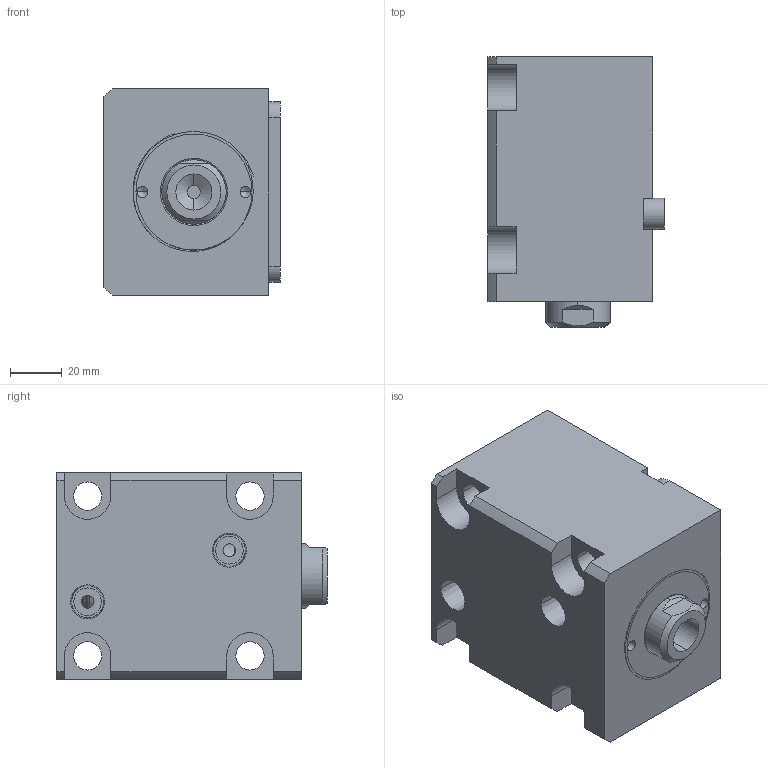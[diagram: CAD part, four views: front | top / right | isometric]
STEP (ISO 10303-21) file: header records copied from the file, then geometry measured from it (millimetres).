
FILE_DESCRIPTION (( 'STEP AP214' ), '1' );
FILE_NAME ('chtb-la40x40n_asm.STEP', '2018-06-02T05:42:14', ( 'Windows' ), ( 'Microsoft' ), 'SwSTEP 2.0', 'SolidWorks 2015', '' );
FILE_SCHEMA (( 'AUTOMOTIVE_DESIGN' ));
Length unit declared in the file: millimetre
Products named in the file (5): CHTB-SD40QG; CHTB-LA40X40NBT; CHTB-LA40PJ; chtb-la40x40n_asm; CHTB-SD40X40NHSG
Assembly tree (4 placements, depth 2):
  chtb-la40x40n_asm
    CHTB-LA40PJ
    CHTB-LA40X40NBT
    CHTB-SD40QG
    CHTB-SD40X40NHSG
Bounding box: 68.5 x 105 x 80 mm (x, y, z)
Volume: 417559 mm3; surface area: 84511.5 mm2
Topology: 4 solids, 4 shells, 160 faces, 430 edges, 286 vertices
Faces by surface type: cylinder 73, plane 48, bspline 14, cone 13, torus 12
Entity records: 10258 total; most frequent: CARTESIAN_POINT 6106, ORIENTED_EDGE 848, DIRECTION 787, EDGE_CURVE 424, AXIS2_PLACEMENT_3D 314, VERTEX_POINT 286, EDGE_LOOP 188, CIRCLE 161
